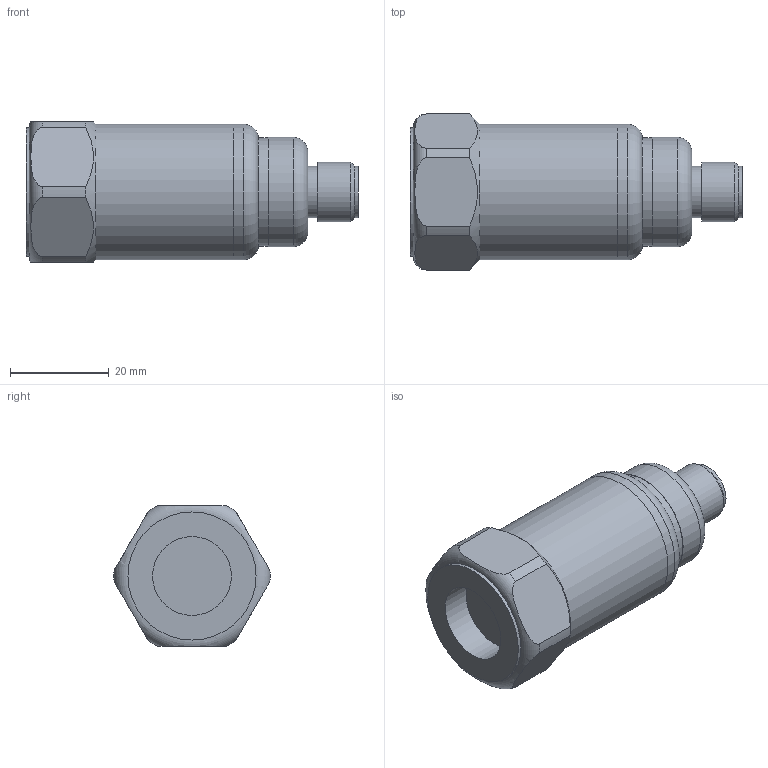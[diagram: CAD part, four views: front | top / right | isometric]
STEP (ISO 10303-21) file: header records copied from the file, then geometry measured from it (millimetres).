
FILE_DESCRIPTION(/* description */ (''),/* implementation_level */ '2;1');
FILE_NAME(/* name */ 'Z:\Engineering\Drawings\3D Library\Assemblies\Website\420 Velocity\HS-420XXX5405.stp',/* time_stamp */ '2023-05-03T13:14:07+01:00',/* author */ ('Ricardo.Peneda'),/* organization */ (''),/* preprocessor_version */ 'ST-DEVELOPER v18.1',/* originating_system */ 'Autodesk Inventor 2021',/* authorisation */ '');
FILE_SCHEMA (('AUTOMOTIVE_DESIGN { 1 0 10303 214 3 1 1 }'));
Length unit declared in the file: inch
Products named in the file (1): HS-420XXX5405_Shrinkwrap_1
Bounding box: 67.39 x 31.69 x 28.5 mm (x, y, z)
Volume: 13385.2 mm3; surface area: 11757.8 mm2
Topology: 3 solids, 3 shells, 53 faces, 139 edges, 102 vertices
Faces by surface type: cylinder 23, plane 22, torus 4, cone 4
Full cylindrical faces by diameter (mm): 9.4 x2, 10.496 x1, 10.5 x1, 12 x1, 16 x1, 18 x1, 19.95 x1, 20 x1, 22 x1, 22.2 x1, 23.3 x1, 25.3 x2, 26 x1, 27.5 x2
Entity records: 1938 total; most frequent: CARTESIAN_POINT 441, DIRECTION 325, ORIENTED_EDGE 278, AXIS2_PLACEMENT_3D 146, EDGE_CURVE 139, VERTEX_POINT 102, CIRCLE 92, EDGE_LOOP 65
